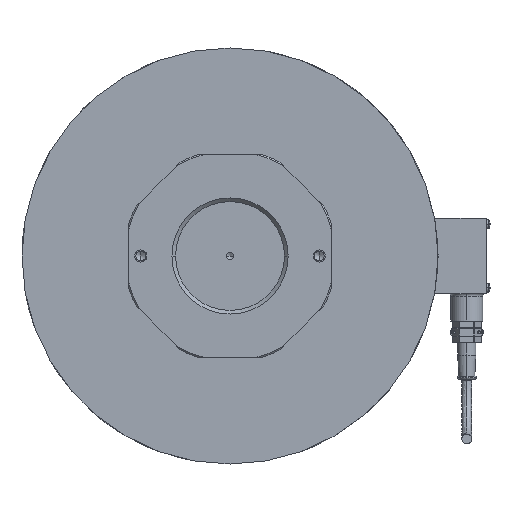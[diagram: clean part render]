
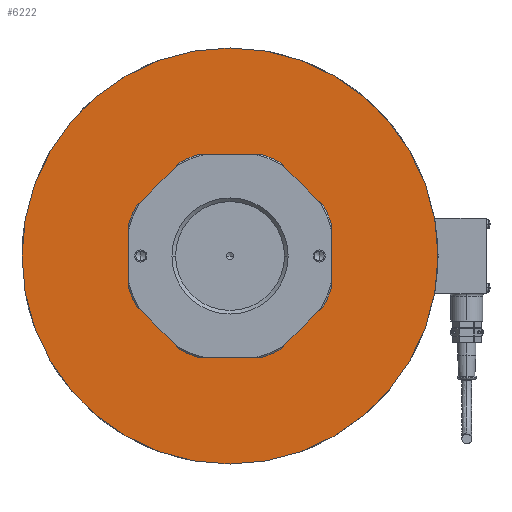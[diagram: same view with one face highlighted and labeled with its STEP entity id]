
A CAD part, front view. The second image highlights one B-rep face of the part: STEP entity #6222.
In plain terms, the highlighted free-form (B-spline) face has degree [1, 1] with [2, 2] control points.
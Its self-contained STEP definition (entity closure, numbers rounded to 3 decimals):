
#25=CARTESIAN_POINT('',(0.,0.047,0.));
#26=DIRECTION('',(0.,-1.,0.));
#27=DIRECTION('',(0.,0.,-1.));
#28=AXIS2_PLACEMENT_3D('',#25,#26,#27);
#166=CARTESIAN_POINT('',(0.,0.047,0.));
#167=DIRECTION('',(0.,1.,0.));
#168=DIRECTION('',(0.,0.,-1.));
#169=AXIS2_PLACEMENT_3D('',#166,#167,#168);
#441=CARTESIAN_POINT('',(0.,0.047,0.));
#442=DIRECTION('',(0.,1.,0.));
#443=DIRECTION('',(0.962,0.,-0.274));
#444=AXIS2_PLACEMENT_3D('',#441,#442,#443);
#451=DIRECTION('',(-0.707,0.,-0.707));
#452=VECTOR('',#451,38.154);
#453=CARTESIAN_POINT('',(60.865,0.047,-33.887));
#454=LINE('',#453,#452);
#491=CARTESIAN_POINT('',(0.,0.047,0.));
#492=DIRECTION('',(0.,1.,0.));
#493=DIRECTION('',(0.486,0.,-0.874));
#494=AXIS2_PLACEMENT_3D('',#491,#492,#493);
#501=DIRECTION('',(-1.,0.,0.));
#502=VECTOR('',#501,38.154);
#503=CARTESIAN_POINT('',(19.077,0.047,-67.));
#504=LINE('',#503,#502);
#541=CARTESIAN_POINT('',(0.,0.047,0.));
#542=DIRECTION('',(0.,1.,0.));
#543=DIRECTION('',(-0.274,0.,-0.962));
#544=AXIS2_PLACEMENT_3D('',#541,#542,#543);
#551=DIRECTION('',(-0.707,0.,0.707));
#552=VECTOR('',#551,38.154);
#553=CARTESIAN_POINT('',(-33.887,0.047,
-60.865));
#554=LINE('',#553,#552);
#591=CARTESIAN_POINT('',(0.,0.047,0.));
#592=DIRECTION('',(0.,1.,0.));
#593=DIRECTION('',(-0.874,0.,-0.486));
#594=AXIS2_PLACEMENT_3D('',#591,#592,#593);
#601=DIRECTION('',(0.,0.,1.));
#602=VECTOR('',#601,38.154);
#603=CARTESIAN_POINT('',(-67.,0.047,-19.077));
#604=LINE('',#603,#602);
#641=CARTESIAN_POINT('',(0.,0.047,0.));
#642=DIRECTION('',(0.,1.,0.));
#643=DIRECTION('',(-0.962,0.,0.274));
#644=AXIS2_PLACEMENT_3D('',#641,#642,#643);
#651=DIRECTION('',(0.707,0.,0.707));
#652=VECTOR('',#651,38.154);
#653=CARTESIAN_POINT('',(-60.865,0.047,33.887));
#654=LINE('',#653,#652);
#691=CARTESIAN_POINT('',(0.,0.047,0.));
#692=DIRECTION('',(0.,1.,0.));
#693=DIRECTION('',(-0.486,0.,0.874));
#694=AXIS2_PLACEMENT_3D('',#691,#692,#693);
#701=DIRECTION('',(1.,0.,0.));
#702=VECTOR('',#701,38.154);
#703=CARTESIAN_POINT('',(-19.077,0.047,67.));
#704=LINE('',#703,#702);
#741=CARTESIAN_POINT('',(0.,0.047,0.));
#742=DIRECTION('',(0.,1.,0.));
#743=DIRECTION('',(0.274,0.,0.962));
#744=AXIS2_PLACEMENT_3D('',#741,#742,#743);
#751=DIRECTION('',(0.707,0.,-0.707));
#752=VECTOR('',#751,38.154);
#753=CARTESIAN_POINT('',(33.887,0.047,60.865));
#754=LINE('',#753,#752);
#791=CARTESIAN_POINT('',(0.,0.047,0.));
#792=DIRECTION('',(0.,1.,0.));
#793=DIRECTION('',(0.874,0.,0.486));
#794=AXIS2_PLACEMENT_3D('',#791,#792,#793);
#801=DIRECTION('',(0.,0.,-1.));
#802=VECTOR('',#801,38.154);
#803=CARTESIAN_POINT('',(67.,0.047,19.077));
#804=LINE('',#803,#802);
#4405=CARTESIAN_POINT('',(0.,0.047,-137.55));
#4407=VERTEX_POINT('',#4405);
#4419=CARTESIAN_POINT('',(0.,0.047,137.55));
#4421=VERTEX_POINT('',#4419);
#4581=CARTESIAN_POINT('',(67.,0.047,-19.077));
#4582=CARTESIAN_POINT('',(60.865,0.047,
-33.887));
#4583=VERTEX_POINT('',#4581);
#4584=VERTEX_POINT('',#4582);
#4585=CARTESIAN_POINT('',(33.887,0.047,
-60.865));
#4586=CARTESIAN_POINT('',(19.077,0.047,-67.));
#4587=VERTEX_POINT('',#4585);
#4588=VERTEX_POINT('',#4586);
#4589=CARTESIAN_POINT('',(-19.077,0.047,-67.));
#4590=CARTESIAN_POINT('',(-33.887,0.047,
-60.865));
#4591=VERTEX_POINT('',#4589);
#4592=VERTEX_POINT('',#4590);
#4593=CARTESIAN_POINT('',(-60.865,0.047,
-33.887));
#4594=CARTESIAN_POINT('',(-67.,0.047,-19.077));
#4595=VERTEX_POINT('',#4593);
#4596=VERTEX_POINT('',#4594);
#4597=CARTESIAN_POINT('',(-67.,0.047,19.077));
#4598=CARTESIAN_POINT('',(-60.865,0.047,
33.887));
#4599=VERTEX_POINT('',#4597);
#4600=VERTEX_POINT('',#4598);
#4601=CARTESIAN_POINT('',(-33.887,0.047,
60.865));
#4602=CARTESIAN_POINT('',(-19.077,0.047,67.));
#4603=VERTEX_POINT('',#4601);
#4604=VERTEX_POINT('',#4602);
#4605=CARTESIAN_POINT('',(19.077,0.047,67.));
#4606=CARTESIAN_POINT('',(33.887,0.047,60.865));
#4607=VERTEX_POINT('',#4605);
#4608=VERTEX_POINT('',#4606);
#4609=CARTESIAN_POINT('',(60.865,0.047,33.887));
#4610=CARTESIAN_POINT('',(67.,0.047,19.077));
#4611=VERTEX_POINT('',#4609);
#4612=VERTEX_POINT('',#4610);
#6179=CARTESIAN_POINT('',(143.055,0.047,-143.052));
#6180=CARTESIAN_POINT('',(-143.055,0.047,-143.052));
#6181=CARTESIAN_POINT('',(143.055,0.047,143.052));
#6182=CARTESIAN_POINT('',(-143.055,0.047,143.052));
#6183=B_SPLINE_SURFACE_WITH_KNOTS('',1,1,((#6179,#6180),(#6181,#6182)),
.UNSPECIFIED.,.F.,.F.,.F.,(2,2),(2,2),(-143.052,143.052),(-143.055,
143.055),.UNSPECIFIED.);
#6184=ORIENTED_EDGE('',*,*,#5460,.T.);
#6185=ORIENTED_EDGE('',*,*,#5410,.F.);
#6186=EDGE_LOOP('',(#6184,#6185));
#6187=FACE_OUTER_BOUND('',#6186,.F.);
#6189=ORIENTED_EDGE('',*,*,#6188,.F.);
#6191=ORIENTED_EDGE('',*,*,#6190,.F.);
#6193=ORIENTED_EDGE('',*,*,#6192,.F.);
#6195=ORIENTED_EDGE('',*,*,#6194,.F.);
#6197=ORIENTED_EDGE('',*,*,#6196,.F.);
#6199=ORIENTED_EDGE('',*,*,#6198,.F.);
#6201=ORIENTED_EDGE('',*,*,#6200,.F.);
#6203=ORIENTED_EDGE('',*,*,#6202,.F.);
#6205=ORIENTED_EDGE('',*,*,#6204,.F.);
#6207=ORIENTED_EDGE('',*,*,#6206,.F.);
#6209=ORIENTED_EDGE('',*,*,#6208,.F.);
#6211=ORIENTED_EDGE('',*,*,#6210,.F.);
#6213=ORIENTED_EDGE('',*,*,#6212,.F.);
#6215=ORIENTED_EDGE('',*,*,#6214,.F.);
#6217=ORIENTED_EDGE('',*,*,#6216,.F.);
#6219=ORIENTED_EDGE('',*,*,#6218,.F.);
#6220=EDGE_LOOP('',(#6189,#6191,#6193,#6195,#6197,#6199,#6201,#6203,#6205,#6207,
#6209,#6211,#6213,#6215,#6217,#6219));
#6221=FACE_BOUND('',#6220,.F.);
#29=CIRCLE('',#28,137.55);
#170=CIRCLE('',#169,137.55);
#445=CIRCLE('',#444,69.663);
#495=CIRCLE('',#494,69.663);
#545=CIRCLE('',#544,69.663);
#595=CIRCLE('',#594,69.663);
#645=CIRCLE('',#644,69.663);
#695=CIRCLE('',#694,69.663);
#745=CIRCLE('',#744,69.663);
#795=CIRCLE('',#794,69.663);
#5410=EDGE_CURVE('',#4407,#4421,#29,.T.);
#5460=EDGE_CURVE('',#4407,#4421,#170,.T.);
#6188=EDGE_CURVE('',#4583,#4584,#445,.T.);
#6190=EDGE_CURVE('',#4612,#4583,#804,.T.);
#6192=EDGE_CURVE('',#4611,#4612,#795,.T.);
#6194=EDGE_CURVE('',#4608,#4611,#754,.T.);
#6196=EDGE_CURVE('',#4607,#4608,#745,.T.);
#6198=EDGE_CURVE('',#4604,#4607,#704,.T.);
#6200=EDGE_CURVE('',#4603,#4604,#695,.T.);
#6202=EDGE_CURVE('',#4600,#4603,#654,.T.);
#6204=EDGE_CURVE('',#4599,#4600,#645,.T.);
#6206=EDGE_CURVE('',#4596,#4599,#604,.T.);
#6208=EDGE_CURVE('',#4595,#4596,#595,.T.);
#6210=EDGE_CURVE('',#4592,#4595,#554,.T.);
#6212=EDGE_CURVE('',#4591,#4592,#545,.T.);
#6214=EDGE_CURVE('',#4588,#4591,#504,.T.);
#6216=EDGE_CURVE('',#4587,#4588,#495,.T.);
#6218=EDGE_CURVE('',#4584,#4587,#454,.T.);
#6222=ADVANCED_FACE('',(#6187,#6221),#6183,.T.);
